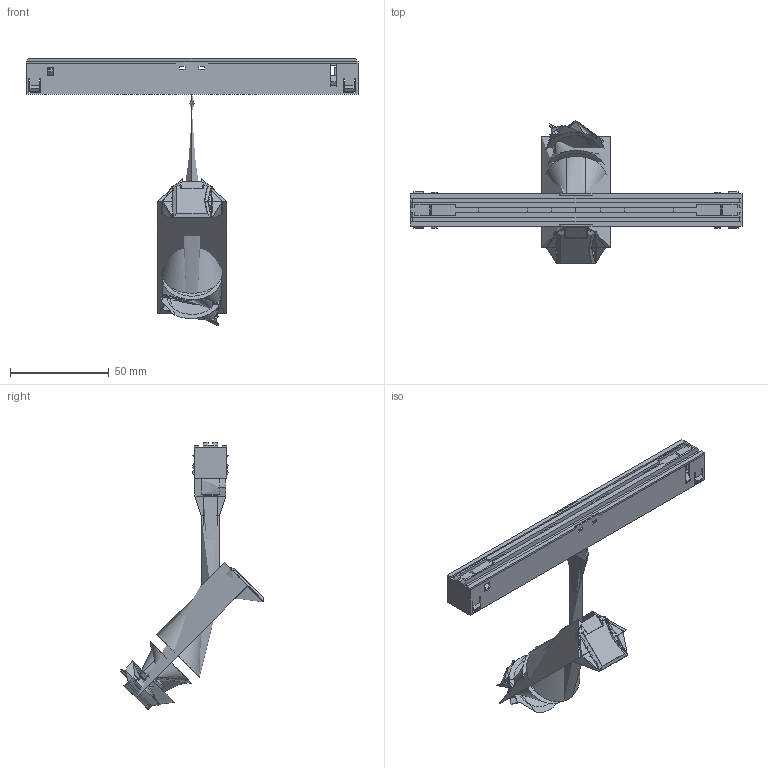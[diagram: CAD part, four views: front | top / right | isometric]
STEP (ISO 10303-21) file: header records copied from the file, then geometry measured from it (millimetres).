
FILE_DESCRIPTION(/* description */ (''),/* implementation_level */ '2;1');
FILE_NAME(/* name */ 'B432__.005',/* time_stamp */ '2024-08-30T10:58:34+02:00',/* author */ (''),/* organization */ (''),/* preprocessor_version */ 'ST-DEVELOPER v16.5',/* originating_system */ '',/* authorisation */ '');
FILE_SCHEMA (('AUTOMOTIVE_DESIGN'));
Length unit declared in the file: millimetre
Products named in the file (1): Document
Bounding box: 168 x 72.46 x 135.47 mm (x, y, z)
Volume: 43729.7 mm3; surface area: 59088.1 mm2
Topology: 12 solids, 13 shells, 505 faces, 1382 edges, 880 vertices
Faces by surface type: plane 275, bspline 230
Entity records: 20968 total; most frequent: CARTESIAN_POINT 12541, ORIENTED_EDGE 2734, EDGE_CURVE 1371, B_SPLINE_CURVE_WITH_KNOTS 945, VERTEX_POINT 876, EDGE_LOOP 546, ADVANCED_FACE 505, FACE_OUTER_BOUND 505
